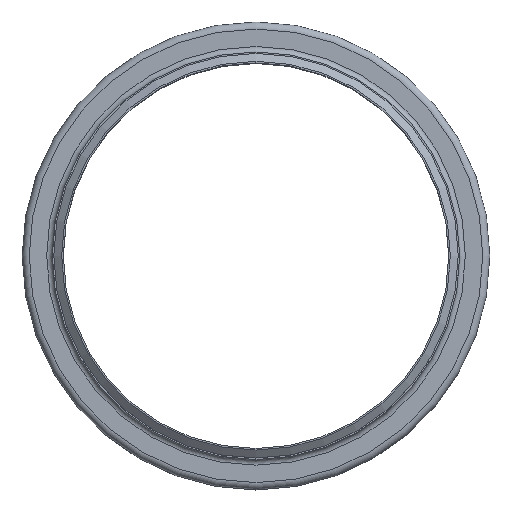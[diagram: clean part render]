
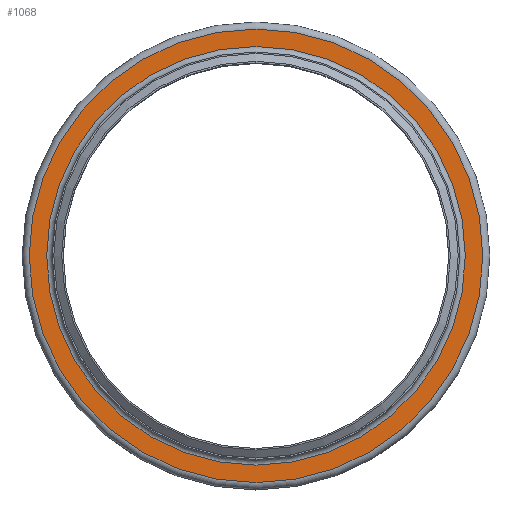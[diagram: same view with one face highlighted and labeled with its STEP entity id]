
A CAD part, top view. The second image highlights one B-rep face of the part: STEP entity #1068.
In plain terms, the highlighted planar face has unit normal (0, 0, 1).
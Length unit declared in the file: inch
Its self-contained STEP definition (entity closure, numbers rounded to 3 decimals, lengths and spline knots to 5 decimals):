
#102=FACE_BOUND('',#282,.T.);
#171=FACE_OUTER_BOUND('',#281,.T.);
#281=EDGE_LOOP('',(#824));
#282=EDGE_LOOP('',(#825));
#402=CIRCLE('',#1264,8.28);
#403=CIRCLE('',#1266,8.97);
#491=VERTEX_POINT('',#1935);
#492=VERTEX_POINT('',#1939);
#606=EDGE_CURVE('',#491,#491,#402,.T.);
#607=EDGE_CURVE('',#492,#492,#403,.T.);
#824=ORIENTED_EDGE('',*,*,#607,.F.);
#825=ORIENTED_EDGE('',*,*,#606,.T.);
#918=PLANE('',#1265);
#1068=ADVANCED_FACE('',(#171,#102),#918,.T.);
#1264=AXIS2_PLACEMENT_3D('',#1937,#1621,#1622);
#1265=AXIS2_PLACEMENT_3D('',#1938,#1623,#1624);
#1266=AXIS2_PLACEMENT_3D('',#1940,#1625,#1626);
#1621=DIRECTION('center_axis',(0.,0.,
-1.));
#1622=DIRECTION('ref_axis',(1.,0.,0.));
#1623=DIRECTION('center_axis',(0.,0.,
1.));
#1624=DIRECTION('ref_axis',(1.,0.,0.));
#1625=DIRECTION('center_axis',(0.,0.,
-1.));
#1626=DIRECTION('ref_axis',(1.,0.,0.));
#1935=CARTESIAN_POINT('',(8.28,0.,-1.72));
#1937=CARTESIAN_POINT('Origin',(0.,0.,
-1.72));
#1938=CARTESIAN_POINT('Origin',(0.,8.97,-1.72));
#1939=CARTESIAN_POINT('',(8.97,0.,-1.72));
#1940=CARTESIAN_POINT('Origin',(0.,0.,
-1.72));
